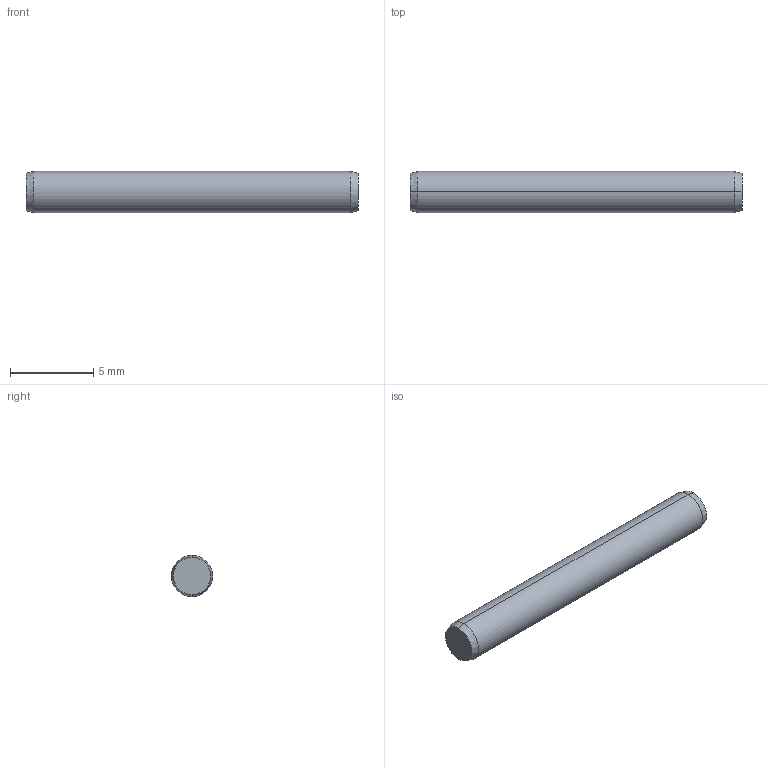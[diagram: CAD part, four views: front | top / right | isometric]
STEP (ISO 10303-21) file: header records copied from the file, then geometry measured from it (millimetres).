
FILE_DESCRIPTION (( 'STEP AP203' ), '1' );
FILE_NAME ('P1206.025-020.step', '2017-06-14T08:01:26', ( 'User' ), ( '' ), 'SwSTEP 2.0', 'SolidWorks 2009', '' );
FILE_SCHEMA (( 'CONFIG_CONTROL_DESIGN' ));
Length unit declared in the file: millimetre
Products named in the file (1): P1206.025-020
Bounding box: 20 x 2.5 x 2.5 mm (x, y, z)
Volume: 97.8 mm3; surface area: 165 mm2
Topology: 1 solids, 1 shells, 8 faces, 14 edges, 8 vertices
Faces by surface type: cone 4, cylinder 2, plane 2
Entity records: 271 total; most frequent: DIRECTION 40, CARTESIAN_POINT 31, ORIENTED_EDGE 28, AXIS2_PLACEMENT_3D 17, EDGE_CURVE 14, EDGE_LOOP 8, ADVANCED_FACE 8, VERTEX_POINT 8
